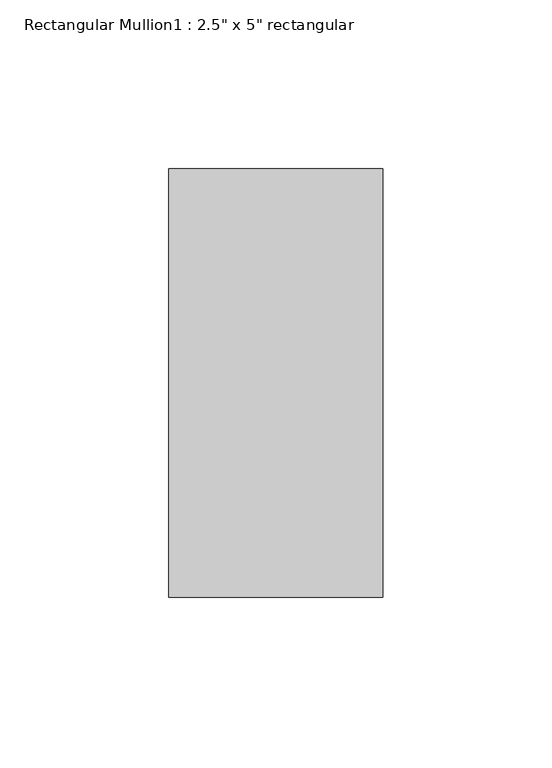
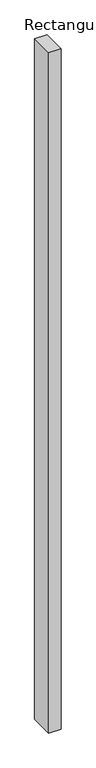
"""IFC4 building model written with IfcOpenShell, lengths in millimetres: member geometry."""

from ifc_helpers import new_model, si_unit, frame, origin, place, context, project, spatial, polyline, outline, extrude, source, transform, mapped, element, save


def member_bbf28ac8(model_context):
    return source(origin(), model_context, "Body", "SweptSolid", [
        extrude(outline(polyline([(0.0, 63.5), (0.0, -63.5), (-63.5, -63.5), (-63.5, 63.5), (0.0, 63.5)])), frame((0.0, 0.0, -3746.5), z_axis=(0.0, 0.0, 1.0), x_axis=(1.0, 0.0, 0.0)), (0.0, 0.0, 1.0), 3746.5),
    ])


if __name__ == "__main__":
    model = new_model("IFC4")
    model_context = context("Model", 3, world=origin())
    ifc_project = project(units=[si_unit("LENGTHUNIT", "METRE", prefix="MILLI")], contexts=[model_context])
    site = spatial("IfcSite", under=ifc_project)
    building = spatial("IfcBuilding", under=site)
    placement = place(None, origin())
    member_shape = member_bbf28ac8(model_context)
    element("IfcMember", 1, ObjectType="Rectangular Mullion1 : 2.5\" x 5\" rectangular", at=placement, inside=building, context=model_context, shape_type="MappedRepresentation", body=[
        mapped(member_shape, transform((0.0, 0.0, 0.0), x_axis=(1.0, 0.0, 0.0), y_axis=(0.0, 1.0, 0.0), z_axis=(0.0, 0.0, 1.0))),
    ])
    save(model, "model.ifc")
